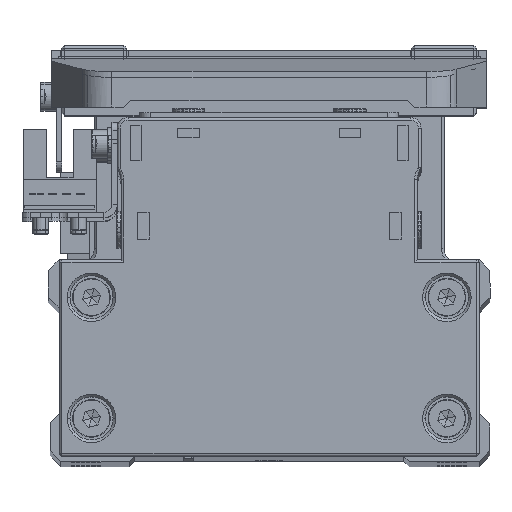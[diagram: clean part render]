
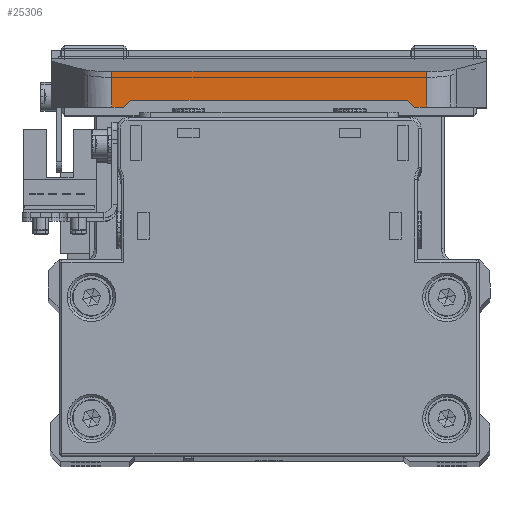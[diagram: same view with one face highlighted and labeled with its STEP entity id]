
A CAD part, top view. The second image highlights one B-rep face of the part: STEP entity #25306.
In plain terms, the highlighted planar face has unit normal (0, 0, 1) as drawn and (-1, 0, 0) by its records, which use the part's own axes.
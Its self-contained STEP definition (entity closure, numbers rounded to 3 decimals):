
#1141 = VECTOR ( 'NONE', #34395, 1000. ) ;
#2172 = CARTESIAN_POINT ( 'NONE',  ( -67.5, 9.3, 25.5 ) ) ;
#2702 = CARTESIAN_POINT ( 'NONE',  ( -67.5, 10.6, 27. ) ) ;
#3631 = CARTESIAN_POINT ( 'NONE',  ( -67.5, 9.3, -25.5 ) ) ;
#3824 = VERTEX_POINT ( 'NONE', #34593 ) ;
#3862 = EDGE_CURVE ( 'NONE', #16136, #32803, #28915, .T. ) ;
#4280 = VECTOR ( 'NONE', #10881, 1000. ) ;
#4456 = CARTESIAN_POINT ( 'NONE',  ( -67.5, 10.6, -27. ) ) ;
#4685 = ORIENTED_EDGE ( 'NONE', *, *, #17970, .T. ) ;
#5056 = LINE ( 'NONE', #16969, #24165 ) ;
#5150 = DIRECTION ( 'NONE',  ( 0., 0., -1. ) ) ;
#7185 = CARTESIAN_POINT ( 'NONE',  ( -67.5, 4., 40.4 ) ) ;
#7193 = LINE ( 'NONE', #19111, #12921 ) ;
#8106 = PLANE ( 'NONE',  #37551 ) ;
#8516 = VERTEX_POINT ( 'NONE', #9205 ) ;
#8559 = ORIENTED_EDGE ( 'NONE', *, *, #16185, .T. ) ;
#9020 = ORIENTED_EDGE ( 'NONE', *, *, #16001, .F. ) ;
#9205 = CARTESIAN_POINT ( 'NONE',  ( -67.5, 10.6, -29.225 ) ) ;
#10588 = LINE ( 'NONE', #22489, #1141 ) ;
#10630 = EDGE_CURVE ( 'NONE', #35522, #20510, #5056, .T. ) ;
#10881 = DIRECTION ( 'NONE',  ( 0., 0., -1. ) ) ;
#11295 = CARTESIAN_POINT ( 'NONE',  ( -67.5, 10.6, 27. ) ) ;
#11503 = VECTOR ( 'NONE', #19108, 1000. ) ;
#11943 = CARTESIAN_POINT ( 'NONE',  ( -67.5, 10.6, 29.225 ) ) ;
#12404 = EDGE_CURVE ( 'NONE', #23857, #8516, #25721, .T. ) ;
#12921 = VECTOR ( 'NONE', #31008, 1000. ) ;
#14092 = DIRECTION ( 'NONE',  ( 0., 0., -1. ) ) ;
#14634 = VECTOR ( 'NONE', #16376, 1000. ) ;
#16001 = EDGE_CURVE ( 'NONE', #3824, #29066, #33946, .T. ) ;
#16136 = VERTEX_POINT ( 'NONE', #19890 ) ;
#16185 = EDGE_CURVE ( 'NONE', #20510, #16136, #38066, .T. ) ;
#16376 = DIRECTION ( 'NONE',  ( 0., 0.655, -0.756 ) ) ;
#16969 = CARTESIAN_POINT ( 'NONE',  ( -67.5, 10.6, 40.4 ) ) ;
#17607 = ORIENTED_EDGE ( 'NONE', *, *, #3862, .T. ) ;
#17970 = EDGE_CURVE ( 'NONE', #32803, #23857, #31210, .T. ) ;
#19108 = DIRECTION ( 'NONE',  ( 0., 0., -1. ) ) ;
#19111 = CARTESIAN_POINT ( 'NONE',  ( -67.5, 4., -29.225 ) ) ;
#19890 = CARTESIAN_POINT ( 'NONE',  ( -67.5, 9.3, 25.5 ) ) ;
#20013 = CARTESIAN_POINT ( 'NONE',  ( -67.5, 10.6, 40.4 ) ) ;
#20510 = VERTEX_POINT ( 'NONE', #2702 ) ;
#22489 = CARTESIAN_POINT ( 'NONE',  ( -67.5, 10.6, 29.225 ) ) ;
#22734 = VECTOR ( 'NONE', #23195, 1000. ) ;
#23195 = DIRECTION ( 'NONE',  ( 0., -0.655, -0.756 ) ) ;
#23857 = VERTEX_POINT ( 'NONE', #31669 ) ;
#24076 = CARTESIAN_POINT ( 'NONE',  ( -67.5, 4., -29.225 ) ) ;
#24165 = VECTOR ( 'NONE', #28873, 1000. ) ;
#25306 = ADVANCED_FACE ( 'NONE', ( #34865 ), #8106, .F. ) ;
#25721 = LINE ( 'NONE', #37643, #4280 ) ;
#26839 = EDGE_LOOP ( 'NONE', ( #17607, #4685, #27218, #27977, #9020, #27446, #36965, #8559 ) ) ;
#27218 = ORIENTED_EDGE ( 'NONE', *, *, #12404, .T. ) ;
#27446 = ORIENTED_EDGE ( 'NONE', *, *, #31694, .T. ) ;
#27977 = ORIENTED_EDGE ( 'NONE', *, *, #30768, .T. ) ;
#28873 = DIRECTION ( 'NONE',  ( 0., 0., -1. ) ) ;
#28915 = LINE ( 'NONE', #2172, #33926 ) ;
#29066 = VERTEX_POINT ( 'NONE', #24076 ) ;
#30768 = EDGE_CURVE ( 'NONE', #8516, #29066, #7193, .T. ) ;
#31008 = DIRECTION ( 'NONE',  ( 0., -1., 0. ) ) ;
#31210 = LINE ( 'NONE', #4456, #14634 ) ;
#31669 = CARTESIAN_POINT ( 'NONE',  ( -67.5, 10.6, -27. ) ) ;
#31694 = EDGE_CURVE ( 'NONE', #3824, #35522, #10588, .T. ) ;
#31907 = DIRECTION ( 'NONE',  ( 1., 0., 0. ) ) ;
#32803 = VERTEX_POINT ( 'NONE', #3631 ) ;
#33926 = VECTOR ( 'NONE', #14092, 1000. ) ;
#33946 = LINE ( 'NONE', #7185, #11503 ) ;
#34395 = DIRECTION ( 'NONE',  ( 0., 1., 0. ) ) ;
#34593 = CARTESIAN_POINT ( 'NONE',  ( -67.5, 4., 29.225 ) ) ;
#34865 = FACE_OUTER_BOUND ( 'NONE', #26839, .T. ) ;
#35522 = VERTEX_POINT ( 'NONE', #11943 ) ;
#36965 = ORIENTED_EDGE ( 'NONE', *, *, #10630, .T. ) ;
#37551 = AXIS2_PLACEMENT_3D ( 'NONE', #20013, #31907, #5150 ) ;
#37643 = CARTESIAN_POINT ( 'NONE',  ( -67.5, 10.6, 40.4 ) ) ;
#38066 = LINE ( 'NONE', #11295, #22734 ) ;
